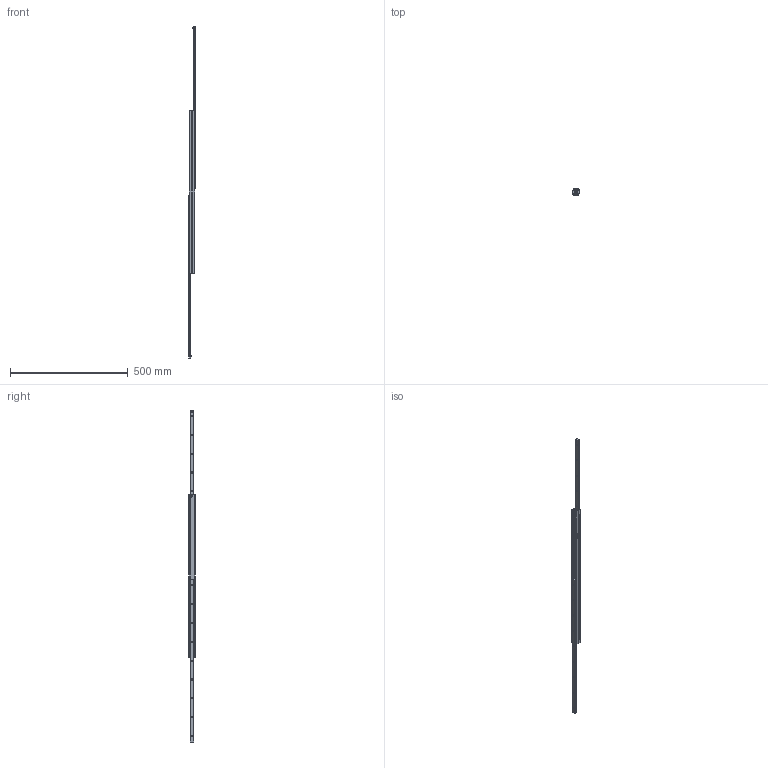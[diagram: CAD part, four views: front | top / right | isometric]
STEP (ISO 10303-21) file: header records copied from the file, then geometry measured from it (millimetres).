
FILE_DESCRIPTION( ( 'STEP AP214' ), '1' );
FILE_NAME( 'p:/temp/worker_81/temp/exporttempdir_3564_1980_elZTB/format_1/DEF28-690717.stp', '2020-03-20T19:46:16', ( 'License CC BY-ND 4.0' ), ( 'CADENAS' ), ' ', 'PARTsolutions', ' ' );
FILE_SCHEMA( ( 'AUTOMOTIVE_DESIGN { 1 0 10303 214 1 1 1 1 }' ) );
Length unit declared in the file: millimetre
Products named in the file (4): DEF28-690717; _282169071712-gf; _28216907171-ei; _282169071711-gf
Assembly tree (4 placements, depth 2):
  DEF28-690717
    _282169071712-gf
    _28216907171-ei  x2
    _282169071711-gf
Bounding box: 26 x 28 x 1407 mm (x, y, z)
Volume: 334658.1 mm3; surface area: 199789.3 mm2
Topology: 4 solids, 4 shells, 204 faces, 514 edges, 330 vertices
Faces by surface type: plane 102, cylinder 62, cone 40
Full cylindrical faces by diameter (mm): 4.134 x18, 5 x2
Entity records: 5780 total; most frequent: DIRECTION 796, CARTESIAN_POINT 744, ORIENTED_EDGE 668, EDGE_CURVE 334, AXIS2_PLACEMENT_3D 300, EDGE_LOOP 258, VERTEX_POINT 248, LINE 196
